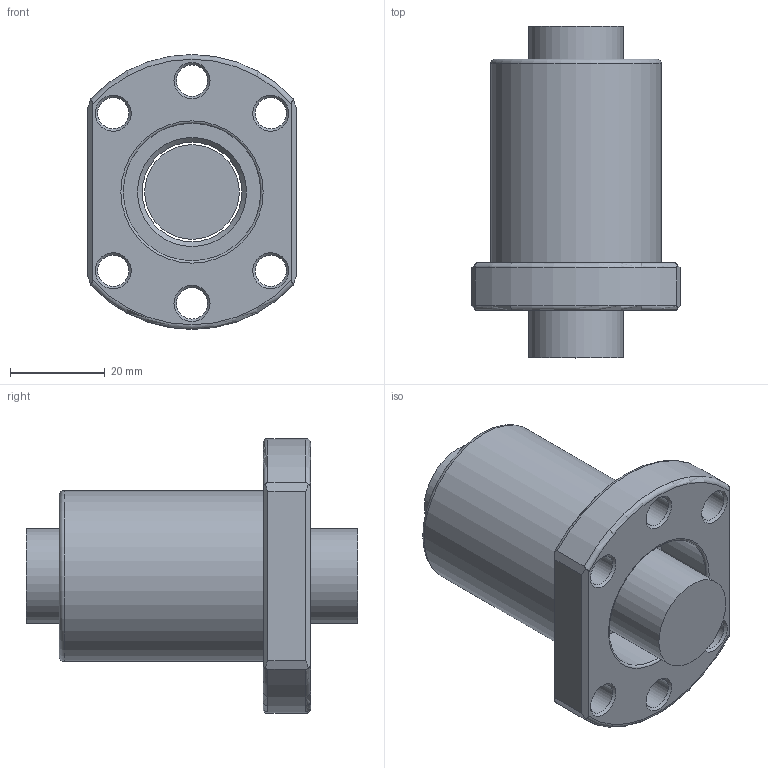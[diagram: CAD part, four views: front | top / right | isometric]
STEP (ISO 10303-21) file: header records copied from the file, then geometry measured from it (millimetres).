
FILE_DESCRIPTION(/* description */ (''),/* implementation_level */ '2;1');
FILE_NAME(/* name */ '2005.prt.step',/* time_stamp */ '2008-12-05T09:30:13+08:00',/* author */ (''),/* organization */ (''),/* preprocessor_version */ 'ST-DEVELOPER v11',/* originating_system */ 'SIEMENS UGS NX 6.0',/* authorisation */ '');
FILE_SCHEMA (('AUTOMOTIVE_DESIGN { 1 0 10303 214 1 1 1 1 }'));
Length unit declared in the file: millimetre
Products named in the file (1): 2005
Bounding box: 44 x 70 x 58 mm (x, y, z)
Volume: 59104.3 mm3; surface area: 20107.8 mm2
Topology: 2 solids, 2 shells, 51 faces, 118 edges, 74 vertices
Faces by surface type: plane 17, cone 14, cylinder 13, torus 7
Full cylindrical faces by diameter (mm): 6.6 x6, 19.95 x1, 21 x1, 28.999 x2, 36 x1
Entity records: 1546 total; most frequent: CARTESIAN_POINT 450, DIRECTION 222, ORIENTED_EDGE 174, AXIS2_PLACEMENT_3D 99, EDGE_LOOP 96, EDGE_CURVE 87, FACE_BOUND 78, VERTEX_POINT 71
